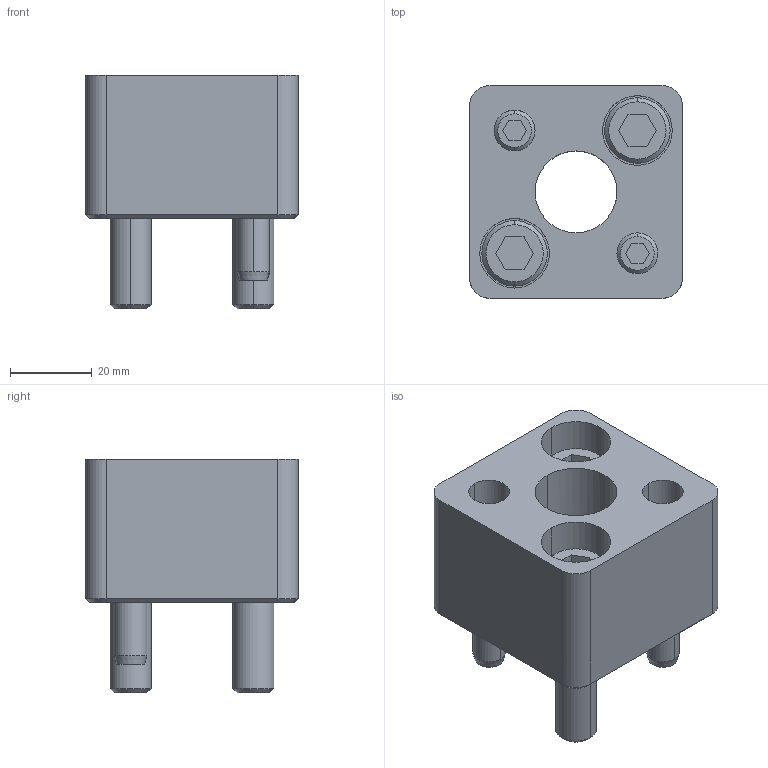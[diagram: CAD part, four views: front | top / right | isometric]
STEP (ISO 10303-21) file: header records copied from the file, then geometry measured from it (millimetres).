
FILE_DESCRIPTION(/* description */ (''),/* implementation_level */ '2;1');
FILE_NAME(/* name */ '3d_hasfr20_04025_r00.stp',/* time_stamp */ '2011-01-10T14:14:55+09:00',/* author */ ('MISUMI'),/* organization */ (''),/* preprocessor_version */ 'ST-DEVELOPER v11',/* originating_system */ 'UGS - NX 5.0',/* authorisation */ '');
FILE_SCHEMA (('CONFIG_CONTROL_DESIGN'));
Length unit declared in the file: millimetre
Products named in the file (1): 3d_hasfr20_04025_r00
Bounding box: 52 x 52 x 57 mm (x, y, z)
Volume: 78931.6 mm3; surface area: 25914.4 mm2
Topology: 7 solids, 7 shells, 147 faces, 326 edges, 207 vertices
Faces by surface type: plane 66, cylinder 51, cone 30
Entity records: 4196 total; most frequent: DIRECTION 744, CARTESIAN_POINT 740, ORIENTED_EDGE 652, EDGE_CURVE 326, AXIS2_PLACEMENT_3D 281, VERTEX_POINT 207, LINE 182, VECTOR 182
